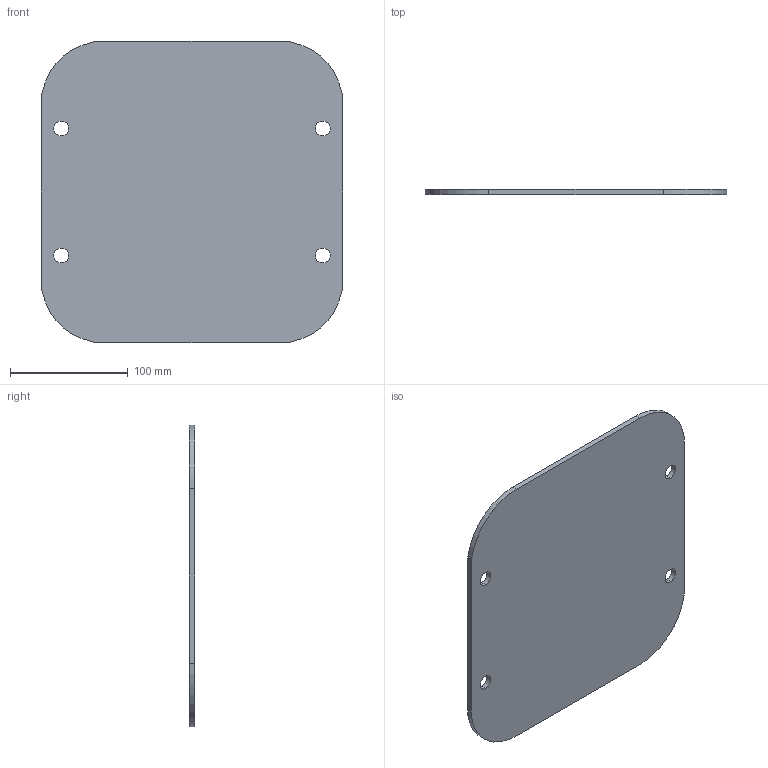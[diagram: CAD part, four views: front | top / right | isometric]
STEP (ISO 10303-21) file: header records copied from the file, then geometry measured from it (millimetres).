
FILE_DESCRIPTION (( 'STEP AP203' ), '1' );
FILE_NAME ('RVPT-1.STEP', '2015-01-07T14:33:48', ( '' ), ( '' ), 'SwSTEP 2.0', 'SolidWorks 2014', '' );
FILE_SCHEMA (( 'CONFIG_CONTROL_DESIGN' ));
Length unit declared in the file: inch
Products named in the file (1): RVPT-1
Bounding box: 256.79 x 4.55 x 256.79 mm (x, y, z)
Volume: 286493.8 mm3; surface area: 130795.1 mm2
Topology: 1 solids, 1 shells, 18 faces, 48 edges, 32 vertices
Faces by surface type: cylinder 12, plane 6
Entity records: 671 total; most frequent: DIRECTION 110, CARTESIAN_POINT 99, ORIENTED_EDGE 96, EDGE_CURVE 48, AXIS2_PLACEMENT_3D 43, VERTEX_POINT 32, EDGE_LOOP 26, VECTOR 24
